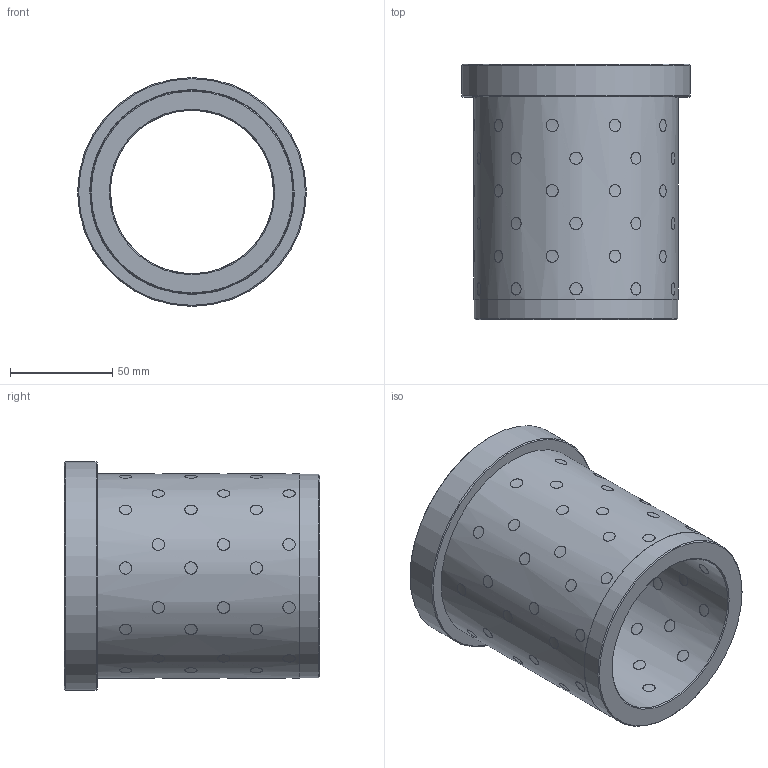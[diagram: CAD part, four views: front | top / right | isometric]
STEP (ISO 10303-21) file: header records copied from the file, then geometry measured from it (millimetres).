
FILE_DESCRIPTION( ( 'STEP AP203' ), '1' );
FILE_NAME( 'D:/Cuma/25 06 2009/D30.03/D30.03_80125.step', '2003-02-03T13:06:03', ( ' ' ), ( ' ' ), 'XStep 1.0', ' ', ' ' );
FILE_SCHEMA( ( 'CONFIG_CONTROL_DESIGN' ) );
Length unit declared in the file: metre
Products named in the file (121): 1; 2; 3; 4; 5; 6; 7; 8; 9; 10; 11; 12; 13; 14; 15; 16; 17; 18; 19; 20; 21; 22; 23; 24; 25; 26; 27; 28; 29; 30; 31; 32; 33; 34; 35; 36; 37; 38; 39; 40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
Bounding box: 112 x 125 x 112 mm (x, y, z)
Volume: 392110.4 mm3; surface area: 116842.1 mm2
Topology: 121 solids, 121 shells, 434 faces, 672 edges, 476 vertices
Faces by surface type: cylinder 424, cone 5, plane 4, torus 1
Full cylindrical faces by diameter (mm): 6 x180, 80 x1, 99.8 x1, 100 x1, 112 x1
Entity records: 35253 total; most frequent: CARTESIAN_POINT 23983, DIRECTION 1138, EDGE_LOOP 748, ORIENTED_EDGE 748, FACE_OUTER_BOUND 619, CC_DESIGN_PERSON_AND_ORGANIZATION_ASSIGNMENT 605, AXIS2_PLACEMENT_3D 569, PERSON_AND_ORGANIZATION_ROLE 484
